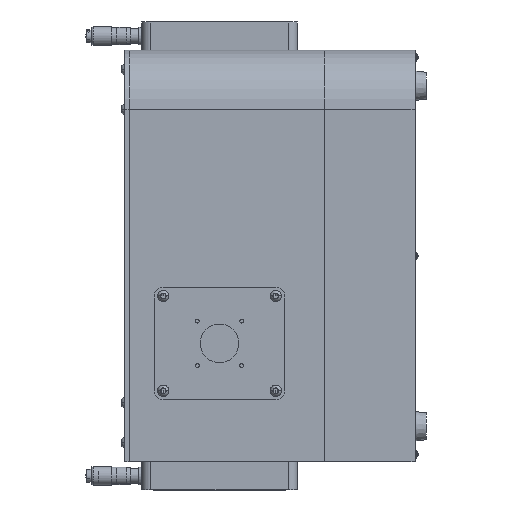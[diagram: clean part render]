
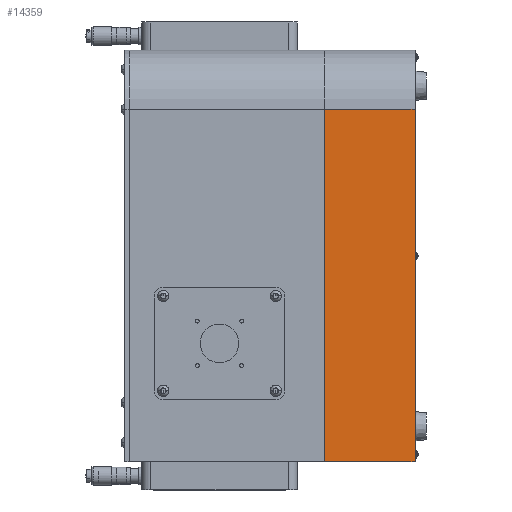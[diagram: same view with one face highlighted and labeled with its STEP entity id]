
A CAD part, left-side view. The second image highlights one B-rep face of the part: STEP entity #14359.
In plain terms, the highlighted planar face has unit normal (-1, 0, 0).
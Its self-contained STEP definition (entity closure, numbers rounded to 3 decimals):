
#199 = ORIENTED_EDGE ( 'NONE', *, *, #14284, .F. ) ;
#329 = PLANE ( 'NONE',  #9356 ) ;
#614 = DIRECTION ( 'NONE',  ( 0., 1., 0. ) ) ;
#1709 = ORIENTED_EDGE ( 'NONE', *, *, #26896, .F. ) ;
#3444 = LINE ( 'NONE', #9253, #8180 ) ;
#5149 = CARTESIAN_POINT ( 'NONE',  ( 0., -69., -40. ) ) ;
#6866 = VECTOR ( 'NONE', #8869, 1000. ) ;
#7045 = DIRECTION ( 'NONE',  ( 0., 0., 1. ) ) ;
#7539 = DIRECTION ( 'NONE',  ( 0., 0., 1. ) ) ;
#8180 = VECTOR ( 'NONE', #614, 1000. ) ;
#8423 = VERTEX_POINT ( 'NONE', #28028 ) ;
#8693 = VECTOR ( 'NONE', #26292, 1000. ) ;
#8869 = DIRECTION ( 'NONE',  ( 0., 0., -1. ) ) ;
#9253 = CARTESIAN_POINT ( 'NONE',  ( 0., -69., -278. ) ) ;
#9356 = AXIS2_PLACEMENT_3D ( 'NONE', #19117, #26053, #7045 ) ;
#12340 = LINE ( 'NONE', #5149, #8693 ) ;
#12867 = LINE ( 'NONE', #26135, #19139 ) ;
#12933 = VERTEX_POINT ( 'NONE', #14203 ) ;
#13952 = EDGE_CURVE ( 'NONE', #26518, #8423, #12340, .T. ) ;
#14203 = CARTESIAN_POINT ( 'NONE',  ( 0., -69., -278. ) ) ;
#14284 = EDGE_CURVE ( 'NONE', #26518, #12933, #28439, .T. ) ;
#14359 = ADVANCED_FACE ( 'NONE', ( #21513 ), #329, .F. ) ;
#15185 = VERTEX_POINT ( 'NONE', #19303 ) ;
#16748 = EDGE_LOOP ( 'NONE', ( #26812, #1709, #29821, #199 ) ) ;
#17948 = CARTESIAN_POINT ( 'NONE',  ( 0., -69., -40. ) ) ;
#19117 = CARTESIAN_POINT ( 'NONE',  ( 0., -69., 0. ) ) ;
#19139 = VECTOR ( 'NONE', #7539, 1000. ) ;
#19303 = CARTESIAN_POINT ( 'NONE',  ( 0., -8., -278. ) ) ;
#19474 = EDGE_CURVE ( 'NONE', #12933, #15185, #3444, .T. ) ;
#21513 = FACE_OUTER_BOUND ( 'NONE', #16748, .T. ) ;
#22894 = CARTESIAN_POINT ( 'NONE',  ( 0., -69., 0. ) ) ;
#26053 = DIRECTION ( 'NONE',  ( 1., 0., 0. ) ) ;
#26135 = CARTESIAN_POINT ( 'NONE',  ( 0., -8., -40. ) ) ;
#26292 = DIRECTION ( 'NONE',  ( 0., 1., 0. ) ) ;
#26518 = VERTEX_POINT ( 'NONE', #17948 ) ;
#26812 = ORIENTED_EDGE ( 'NONE', *, *, #13952, .T. ) ;
#26896 = EDGE_CURVE ( 'NONE', #15185, #8423, #12867, .T. ) ;
#28028 = CARTESIAN_POINT ( 'NONE',  ( 0., -8., -40. ) ) ;
#28439 = LINE ( 'NONE', #22894, #6866 ) ;
#29821 = ORIENTED_EDGE ( 'NONE', *, *, #19474, .F. ) ;
